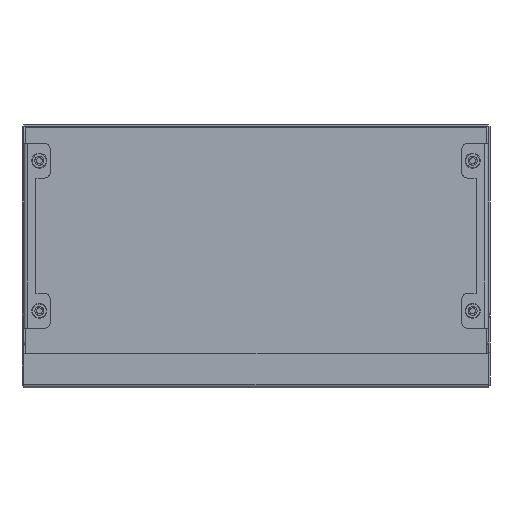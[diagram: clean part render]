
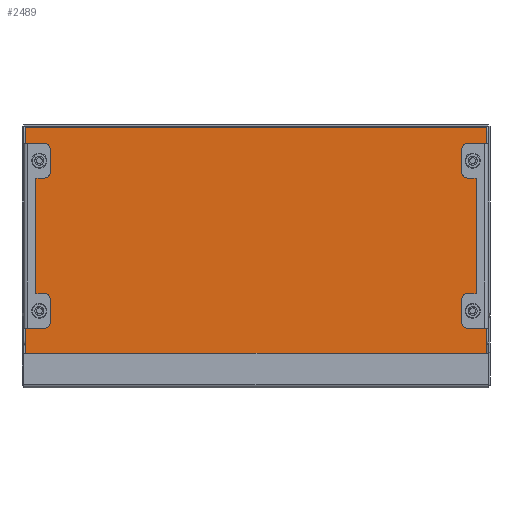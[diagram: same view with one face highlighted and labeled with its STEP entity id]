
A CAD part, front view. The second image highlights one B-rep face of the part: STEP entity #2489.
In plain terms, the highlighted planar face has unit normal (0, -1, 0).
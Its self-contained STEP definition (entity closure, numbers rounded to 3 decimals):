
#494 = DIRECTION ( 'NONE',  ( 0., -1., 0. ) ) ;
#581 = CARTESIAN_POINT ( 'NONE',  ( 199.5, -1.5, -100.245 ) ) ;
#625 = CARTESIAN_POINT ( 'NONE',  ( 202.5, -1.5, 98.5 ) ) ;
#641 = DIRECTION ( 'NONE',  ( 0., 0., -1. ) ) ;
#732 = LINE ( 'NONE', #625, #7194 ) ;
#836 = CARTESIAN_POINT ( 'NONE',  ( 199.5, -1.5, 97.925 ) ) ;
#866 = EDGE_CURVE ( 'NONE', #7131, #9863, #8437, .T. ) ;
#964 = CARTESIAN_POINT ( 'NONE',  ( 199.5, -1.5, -100.257 ) ) ;
#1154 = CARTESIAN_POINT ( 'NONE',  ( 199.5, -1.5, 98.5 ) ) ;
#1325 = LINE ( 'NONE', #6244, #10469 ) ;
#1418 = CARTESIAN_POINT ( 'NONE',  ( 49.627, -1.5, 49.627 ) ) ;
#1428 = CARTESIAN_POINT ( 'NONE',  ( 199.524, -1.5, -99.421 ) ) ;
#1473 = VECTOR ( 'NONE', #10478, 1000. ) ;
#1511 = DIRECTION ( 'NONE',  ( 0., 0., 1. ) ) ;
#1515 = AXIS2_PLACEMENT_3D ( 'NONE', #3016, #6952, #6236 ) ;
#1715 = VERTEX_POINT ( 'NONE', #9580 ) ;
#2165 = LINE ( 'NONE', #6423, #1473 ) ;
#2384 = DIRECTION ( 'NONE',  ( -1., 0., 0. ) ) ;
#2489 = ADVANCED_FACE ( 'NONE', ( #5902 ), #3566, .F. ) ;
#2570 = EDGE_CURVE ( 'NONE', #7616, #5798, #10401, .T. ) ;
#2628 = EDGE_CURVE ( 'NONE', #7616, #4765, #2920, .T. ) ;
#2920 = CIRCLE ( 'NONE', #1515, 0.6 ) ;
#3016 = CARTESIAN_POINT ( 'NONE',  ( 199.524, -1.5, 98.524 ) ) ;
#3194 = EDGE_LOOP ( 'NONE', ( #7496, #10173, #6252, #9878, #8034, #5960, #4621, #5904, #3385, #4461, #4543 ) ) ;
#3212 = EDGE_CURVE ( 'NONE', #1715, #4570, #10019, .T. ) ;
#3266 = VECTOR ( 'NONE', #5469, 1000. ) ;
#3277 = DIRECTION ( 'NONE',  ( 0.707, 0., -0.707 ) ) ;
#3385 = ORIENTED_EDGE ( 'NONE', *, *, #5545, .F. ) ;
#3475 = DIRECTION ( 'NONE',  ( 0., 0., 1. ) ) ;
#3566 = PLANE ( 'NONE',  #10070 ) ;
#4129 = CARTESIAN_POINT ( 'NONE',  ( 199.5, -1.5, -98.821 ) ) ;
#4218 = CIRCLE ( 'NONE', #5440, 0.6 ) ;
#4461 = ORIENTED_EDGE ( 'NONE', *, *, #3212, .F. ) ;
#4464 = VERTEX_POINT ( 'NONE', #5053 ) ;
#4543 = ORIENTED_EDGE ( 'NONE', *, *, #7970, .F. ) ;
#4570 = VERTEX_POINT ( 'NONE', #8487 ) ;
#4621 = ORIENTED_EDGE ( 'NONE', *, *, #7745, .T. ) ;
#4655 = VECTOR ( 'NONE', #9376, 1000. ) ;
#4712 = EDGE_CURVE ( 'NONE', #5798, #4464, #8080, .T. ) ;
#4765 = VERTEX_POINT ( 'NONE', #5835 ) ;
#4778 = VERTEX_POINT ( 'NONE', #10120 ) ;
#4802 = DIRECTION ( 'NONE',  ( 0., -1., 0. ) ) ;
#4810 = VECTOR ( 'NONE', #3277, 1000. ) ;
#5053 = CARTESIAN_POINT ( 'NONE',  ( 199.1, -1.5, -99.845 ) ) ;
#5109 = CARTESIAN_POINT ( 'NONE',  ( -199.524, -1.5, 98.524 ) ) ;
#5440 = AXIS2_PLACEMENT_3D ( 'NONE', #5109, #9317, #3475 ) ;
#5469 = DIRECTION ( 'NONE',  ( 0., 0., -1. ) ) ;
#5545 = EDGE_CURVE ( 'NONE', #4570, #8255, #6435, .T. ) ;
#5674 = CARTESIAN_POINT ( 'NONE',  ( -199.63, -1.5, -99.527 ) ) ;
#5798 = VERTEX_POINT ( 'NONE', #4129 ) ;
#5835 = CARTESIAN_POINT ( 'NONE',  ( 198.925, -1.5, 98.5 ) ) ;
#5902 = FACE_OUTER_BOUND ( 'NONE', #3194, .T. ) ;
#5904 = ORIENTED_EDGE ( 'NONE', *, *, #7405, .T. ) ;
#5960 = ORIENTED_EDGE ( 'NONE', *, *, #2628, .T. ) ;
#6003 = CARTESIAN_POINT ( 'NONE',  ( -199.5, -1.5, 97.925 ) ) ;
#6236 = DIRECTION ( 'NONE',  ( 0., 0., 1. ) ) ;
#6244 = CARTESIAN_POINT ( 'NONE',  ( -49.521, -1.5, 49.521 ) ) ;
#6252 = ORIENTED_EDGE ( 'NONE', *, *, #9565, .F. ) ;
#6406 = DIRECTION ( 'NONE',  ( 0.707, 0., 0.707 ) ) ;
#6423 = CARTESIAN_POINT ( 'NONE',  ( 202.5, -1.5, -100.257 ) ) ;
#6435 = LINE ( 'NONE', #8120, #10130 ) ;
#6646 = CARTESIAN_POINT ( 'NONE',  ( -199.3, -1.5, -100.257 ) ) ;
#6842 = DIRECTION ( 'NONE',  ( 0., 1., 0. ) ) ;
#6898 = DIRECTION ( 'NONE',  ( 0., 0., 1. ) ) ;
#6952 = DIRECTION ( 'NONE',  ( 0., 1., 0. ) ) ;
#7131 = VERTEX_POINT ( 'NONE', #964 ) ;
#7194 = VECTOR ( 'NONE', #2384, 1000. ) ;
#7292 = VERTEX_POINT ( 'NONE', #6646 ) ;
#7322 = LINE ( 'NONE', #1418, #4810 ) ;
#7405 = EDGE_CURVE ( 'NONE', #4778, #8255, #4218, .T. ) ;
#7496 = ORIENTED_EDGE ( 'NONE', *, *, #8744, .F. ) ;
#7616 = VERTEX_POINT ( 'NONE', #836 ) ;
#7745 = EDGE_CURVE ( 'NONE', #4765, #4778, #732, .T. ) ;
#7970 = EDGE_CURVE ( 'NONE', #7292, #1715, #1325, .T. ) ;
#8034 = ORIENTED_EDGE ( 'NONE', *, *, #2570, .F. ) ;
#8080 = CIRCLE ( 'NONE', #8780, 0.6 ) ;
#8120 = CARTESIAN_POINT ( 'NONE',  ( -199.5, -1.5, -101.757 ) ) ;
#8255 = VERTEX_POINT ( 'NONE', #6003 ) ;
#8257 = AXIS2_PLACEMENT_3D ( 'NONE', #5674, #4802, #641 ) ;
#8385 = CARTESIAN_POINT ( 'NONE',  ( 199.5, -1.5, 0. ) ) ;
#8437 = LINE ( 'NONE', #8385, #4655 ) ;
#8487 = CARTESIAN_POINT ( 'NONE',  ( -199.5, -1.5, -98.788 ) ) ;
#8744 = EDGE_CURVE ( 'NONE', #7131, #7292, #2165, .T. ) ;
#8780 = AXIS2_PLACEMENT_3D ( 'NONE', #1428, #494, #9748 ) ;
#9317 = DIRECTION ( 'NONE',  ( 0., 1., 0. ) ) ;
#9376 = DIRECTION ( 'NONE',  ( 0., 0., 1. ) ) ;
#9565 = EDGE_CURVE ( 'NONE', #4464, #9863, #7322, .T. ) ;
#9580 = CARTESIAN_POINT ( 'NONE',  ( -199.1, -1.5, -100.057 ) ) ;
#9748 = DIRECTION ( 'NONE',  ( 0., 0., -1. ) ) ;
#9863 = VERTEX_POINT ( 'NONE', #581 ) ;
#9878 = ORIENTED_EDGE ( 'NONE', *, *, #4712, .F. ) ;
#10016 = CARTESIAN_POINT ( 'NONE',  ( 202.5, -1.5, 101.5 ) ) ;
#10019 = CIRCLE ( 'NONE', #8257, 0.75 ) ;
#10070 = AXIS2_PLACEMENT_3D ( 'NONE', #10016, #6842, #6898 ) ;
#10120 = CARTESIAN_POINT ( 'NONE',  ( -198.925, -1.5, 98.5 ) ) ;
#10130 = VECTOR ( 'NONE', #1511, 1000. ) ;
#10173 = ORIENTED_EDGE ( 'NONE', *, *, #866, .T. ) ;
#10401 = LINE ( 'NONE', #1154, #3266 ) ;
#10469 = VECTOR ( 'NONE', #6406, 1000. ) ;
#10478 = DIRECTION ( 'NONE',  ( -1., 0., 0. ) ) ;
